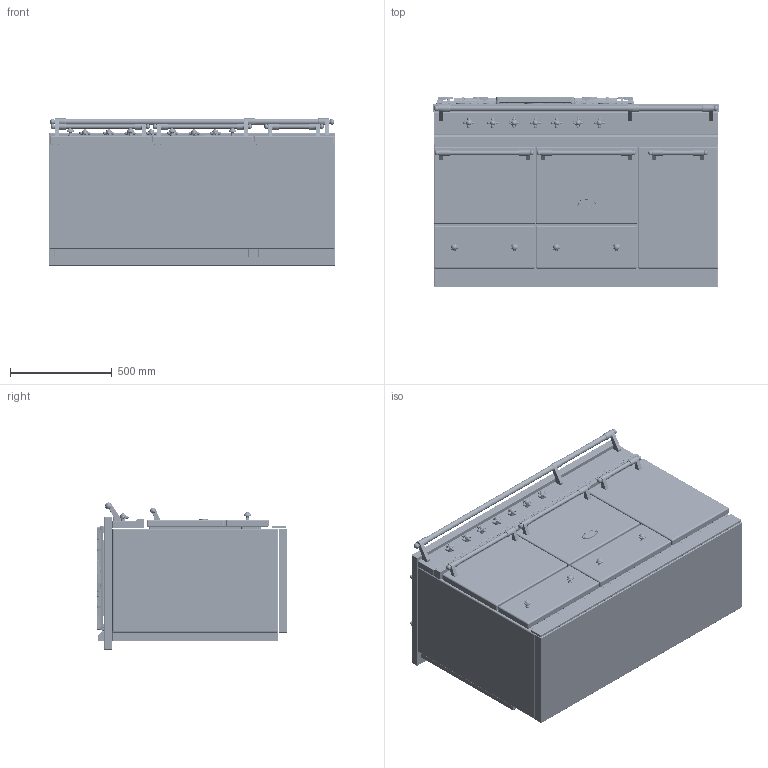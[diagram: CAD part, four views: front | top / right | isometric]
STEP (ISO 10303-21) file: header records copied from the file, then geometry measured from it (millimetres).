
FILE_DESCRIPTION((''),'2;1');
FILE_NAME('LCF1452D_ASM','2014-07-29T',('r.avril'),(''),'PRO/ENGINEER BY PARAMETRIC TECHNOLOGY CORPORATION, 2014090','PRO/ENGINEER BY PARAMETRIC TECHNOLOGY CORPORATION, 2014090','');
FILE_SCHEMA(('AP203_CONFIGURATION_CONTROLLED_3D_DESIGN_OF_MECHANICAL_PARTS_AND_ASSEMBLIES_MIM_LF { 1 0 10303 403 2 1 2 }'));
Products named in the file (27): BASE_EXPORT_CLUNY_1400D; 65650003; 65650004; 6531940; 6531941; 6538399; 1931942; 6518450; 6531942_ASM; 6531943; 65049009; 65650001; 65650006; BASE_EXPORT_CLUNY_1400D_ASM; TABLE_1400D_CLASSIQUE; 3KW; 5KW; 1_5KW; 4KW; 65062008; 65062012; 65149005; 90000549_ASM; 6537024; 90000487_ASM; TABLE_1400D_TRADITION_ASM; LCF1452D_ASM
Assembly tree (48 placements, depth 4):
  LCF1452D_ASM
    BASE_EXPORT_CLUNY_1400D_ASM
      BASE_EXPORT_CLUNY_1400D
      65650003
      65650004
      6531940  x3
      6531941  x3
      6531942_ASM  x7
        6538399
        1931942
        6518450
      6531943  x4
      65049009
      65650001
      65650006
    TABLE_1400D_TRADITION_ASM
      TABLE_1400D_CLASSIQUE
      3KW  x2
      5KW
      1_5KW
      4KW
      90000549_ASM
        65062008
        65062012
        65149005  x4
      90000487_ASM  x2
        6537024
        65149005
Bounding box: 1405 x 937.5 x 724 mm (x, y, z)
Volume: 728465965.1 mm3; surface area: 11537842.3 mm2
Topology: 60 solids, 73 shells, 7891 faces, 20746 edges, 13386 vertices
Faces by surface type: plane 3801, cylinder 2179, bspline 636, sphere 450, torus 362, extrusion 238, cone 209, revolution 16
Entity records: 207135 total; most frequent: CARTESIAN_POINT 50796, DIRECTION 24110, ORIENTED_EDGE 23930, EDGE_CURVE 11977, PRESENTATION_STYLE_ASSIGNMENT 9954, STYLED_ITEM 9931, CURVE_STYLE 9888, VECTOR 8203
